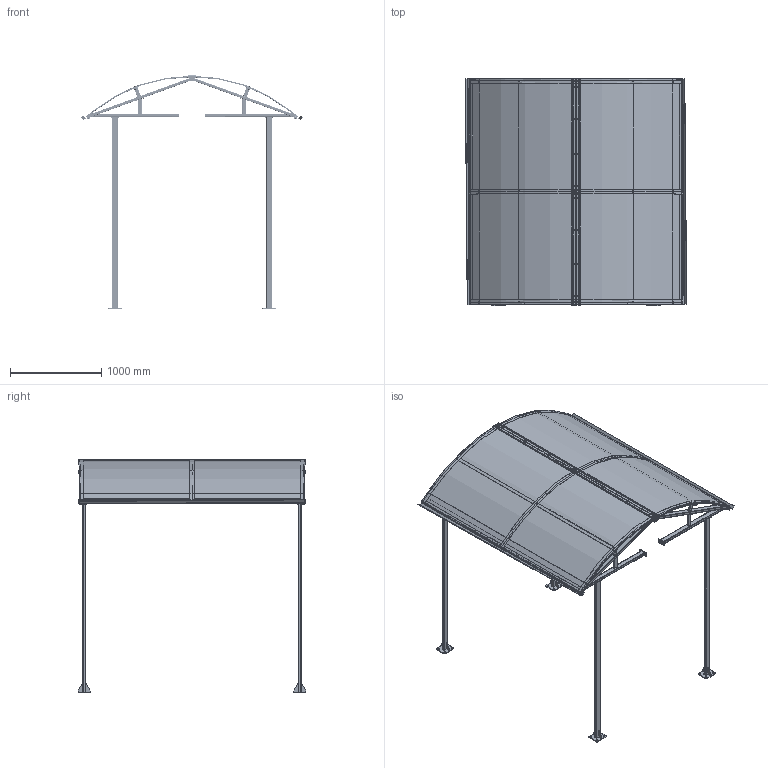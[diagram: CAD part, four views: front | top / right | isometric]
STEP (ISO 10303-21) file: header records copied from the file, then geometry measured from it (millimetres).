
FILE_DESCRIPTION(/* description */ ('Unknown'),/* implementation_level */ '2;1');
FILE_NAME(/* name */ 'RTD-20.300.00 Крыша',/* time_stamp */ '2021-11-22T11:36:39+03:00',/* author */ ('Unknown'),/* organization */ ('Unknown'),/* preprocessor_version */ 'ST-DEVELOPER v18.1',/* originating_system */ 'Solid Edge',/* authorisation */ 'Unknown');
FILE_SCHEMA (('AUTOMOTIVE_DESIGN {1 0 10303 214 3 1 1}'));
Length unit declared in the file: millimetre
Products named in the file (90): RTD-20.300.00 ﾊ; RTD-16.1.403.00 Ñòîéêà êðûøè; RTD-16.1.403.02 砑僔蠂縺; RTD-16.1.403.01 栺鍣罻; RTD-16.1.403.03 砑僔蠂縺_r1; RTD-16.1.120.06 ﾐ裔; RTD-16.1.413.00 ﾊ煇鳫; RTD-16.1.413.01 醜鍆趌r1; Çàêëåïêà_ðåçüáîâàÿ_Ì6_FTT.C_0,5...3,0; RTD-16.1.413.03 赶鎀鍧_r1; RTD-16.1.413.04 砑僔蠂縺_r1; RTD-16.1.413.02 Áàëêà; RTD-16.1.413.05 砑僔蠂縺; RTD-20.310.00 Êàðêàñ êðûøè â ñáîðå; RTD-20.310.02 ﾎ鞣; RTD-20.310.01 Ëèñò_äëÿ ñáîðêè; Çàãëóøêà 40õ20 (÷åðí.); Çàêëåïêà_âûòÿæíàÿ_4õ8_DIN_7337_2,5...4,5_àëþì.; RTD-20.310.05 砑僔蠂縺; RTD-16.1.411.07 砑僔蠂縺; RTD-20.310.03 砑僔蠂縺; Ñàìîðåç_4,2x32_äëÿ_òîíêèõ_ïëàñòèí; RTD-20.310.04-01 Ïðîôèëü; RTD-20.310.04 Ïðîôèëü; RTD-20.320.00 Êàðêàñ êðûøè; RTD-20.320.03 ﾒ矜; RTD-20.320.04 Áàëêà; RTD-16.1.412.02 秮鶋趌r1; RTD-20.320.02 ﾒ矜; RTD-20.320.01 ﾒ矜; Çàêëåïêà_ðåçüáîâàÿ_Ì6_FTS.C_1,5...3,8_oa_0; Çàêëåïêà_ðåçüáîâàÿ_Ì6_FTS.C_1,5...3,8_oa_1; Çàêëåïêà_ðåçüáîâàÿ_Ì6_FTS.C_1,5...3,8_oa_2; Çàêëåïêà_ðåçüáîâàÿ_Ì6_FTT.C_0,5...3,0_oa_3; Çàêëåïêà_ðåçüáîâàÿ_Ì8_FTS.C_1,5...3,8_oa_4; Çàêëåïêà_ðåçüáîâàÿ_Ì6_FTT.C_0,5...3,0_oa_5; Çàêëåïêà_ðåçüáîâàÿ_Ì6_FTT.C_0,5...3,0_oa_6; Çàêëåïêà_ðåçüáîâàÿ_Ì6_FTT.C_0,5...3,0_oa_7; Çàêëåïêà_ðåçüáîâàÿ_Ì6_FTT.C_0,5...3,0_oa_8; Çàêëåïêà_ðåçüáîâàÿ_Ì6_FTS.C_1,5...3,8_oa_9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
Assembly tree (298 placements, depth 4):
  RTD-20.300.00 ﾊ
    RTD-16.1.403.00 Ñòîéêà êðûøè  x4
      RTD-16.1.403.02 砑僔蠂縺
      RTD-16.1.403.01 栺鍣罻
      RTD-16.1.403.03 砑僔蠂縺_r1
      RTD-16.1.120.06 ﾐ裔
    RTD-16.1.413.00 ﾊ煇鳫  x4
      RTD-16.1.413.01 醜鍆趌r1
      Çàêëåïêà_ðåçüáîâàÿ_Ì6_FTT.C_0,5...3,0
      RTD-16.1.413.03 赶鎀鍧_r1
      RTD-16.1.413.04 砑僔蠂縺_r1
      RTD-16.1.413.02 Áàëêà
      RTD-16.1.413.05 砑僔蠂縺
    RTD-20.310.00 Êàðêàñ êðûøè â ñáîðå
      RTD-20.310.02 ﾎ鞣
      RTD-20.310.01 Ëèñò_äëÿ ñáîðêè  x2
      Çàãëóøêà 40õ20 (÷åðí.)  x6
      Çàêëåïêà_âûòÿæíàÿ_4õ8_DIN_7337_2,5...4,5_àëþì.  x6
      RTD-20.310.05 砑僔蠂縺
      RTD-16.1.411.07 砑僔蠂縺  x2
      RTD-20.310.03 砑僔蠂縺  x4
      Ñàìîðåç_4,2x32_äëÿ_òîíêèõ_ïëàñòèí  x28
      RTD-20.310.04-01 Ïðîôèëü
      RTD-20.310.04 Ïðîôèëü
      RTD-20.320.00 Êàðêàñ êðûøè
        RTD-20.320.03 ﾒ矜
        RTD-20.320.04 Áàëêà  x2
        RTD-16.1.412.02 秮鶋趌r1  x2
        RTD-20.320.02 ﾒ矜
        RTD-20.320.01 ﾒ矜
        Çàêëåïêà_ðåçüáîâàÿ_Ì6_FTS.C_1,5...3,8_oa_0
        Çàêëåïêà_ðåçüáîâàÿ_Ì6_FTS.C_1,5...3,8_oa_1
        Çàêëåïêà_ðåçüáîâàÿ_Ì6_FTS.C_1,5...3,8_oa_2
        Çàêëåïêà_ðåçüáîâàÿ_Ì6_FTT.C_0,5...3,0_oa_3
        Çàêëåïêà_ðåçüáîâàÿ_Ì8_FTS.C_1,5...3,8_oa_4
        Çàêëåïêà_ðåçüáîâàÿ_Ì6_FTT.C_0,5...3,0_oa_5
        Çàêëåïêà_ðåçüáîâàÿ_Ì6_FTT.C_0,5...3,0_oa_6
        Çàêëåïêà_ðåçüáîâàÿ_Ì6_FTT.C_0,5...3,0_oa_7
        Çàêëåïêà_ðåçüáîâàÿ_Ì6_FTT.C_0,5...3,0_oa_8
        Çàêëåïêà_ðåçüáîâàÿ_Ì6_FTS.C_1,5...3,8_oa_9
        Çàêëåïêà_ðåçüáîâàÿ_Ì4_FTS.C_1,5...3,5_oa_10
        Çàêëåïêà_ðåçüáîâàÿ_Ì6_FTT.C_0,5...3,0_oa_11
        Çàêëåïêà_ðåçüáîâàÿ_Ì6_FTS.C_1,5...3,8_oa_12
        Çàêëåïêà_ðåçüáîâàÿ_Ì6_FTS.C_1,5...3,8_oa_13
        Çàêëåïêà_ðåçüáîâàÿ_Ì6_FTS.C_1,5...3,8_oa_14
        Çàêëåïêà_ðåçüáîâàÿ_Ì6_FTS.C_1,5...3,8_oa_15
        Çàêëåïêà_ðåçüáîâàÿ_Ì8_FTS.C_1,5...3,8_oa_16
        Çàêëåïêà_ðåçüáîâàÿ_Ì4_FTS.C_1,5...3,5_oa_17
        Çàêëåïêà_ðåçüáîâàÿ_Ì4_FTS.C_1,5...3,5_oa_18
        Çàêëåïêà_ðåçüáîâàÿ_Ì4_FTS.C_1,5...3,5_oa_19
        Çàêëåïêà_ðåçüáîâàÿ_Ì8_FTS.C_1,5...3,8_oa_20
        Çàêëåïêà_ðåçüáîâàÿ_Ì8_FTS.C_1,5...3,8_oa_21
        Çàêëåïêà_ðåçüáîâàÿ_Ì4_FTS.C_1,5...3,5_oa_22
        Çàêëåïêà_ðåçüáîâàÿ_Ì4_FTS.C_1,5...3,5_oa_23
      RTD-16.1.411.05 Ïðîôèëü_äëÿ ñáîðêè
      RTD-16.1.411.05-01 Ïðîôèëü_äëÿ ñáîðêè
    RTD-20.310.00-01 Êàðêàñ êðûøè â ñáîðå
      RTD-20.310.02 ﾎ鞣
      RTD-20.310.01 Ëèñò_äëÿ ñáîðêè  x2
      Çàêëåïêà_âûòÿæíàÿ_4õ8_DIN_7337_2,5...4,5_àëþì._oa_24
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Bounding box: 2424.39 x 2492 x 2558.11 mm (x, y, z)
Volume: 76200215.6 mm3; surface area: 26898883.7 mm2
Topology: 326 solids, 382 shells, 6506 faces, 14361 edges, 8923 vertices
Faces by surface type: plane 3944, cylinder 1752, cone 382, torus 252, sphere 112, bspline 64
Full cylindrical faces by diameter (mm): 2.5 x12, 3 x24, 3.141 x6, 3.242 x6, 4 x24, 4.1 x12, 4.2 x68, 4.5 x8, 4.773 x38, 4.917 x38, 5 x44, 5.9 x12, 6 x76, 6.466 x8, 6.647 x8, 7.8 x38, 8 x44, 8.8 x6, 8.9 x76, 9 x62, 9.5 x8, 10 x46, 10.9 x16, 11.4 x56, 11.8 x16, 12 x22, 13 x14, 13.8 x8, 15 x38, 16 x12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
Entity records: 45896 total; most frequent: DIRECTION 7437, CARTESIAN_POINT 6863, ORIENTED_EDGE 5234, AXIS2_PLACEMENT_3D 3081, EDGE_CURVE 2617, FACE_BOUND 2540, EDGE_LOOP 2539, VERTEX_POINT 2019
